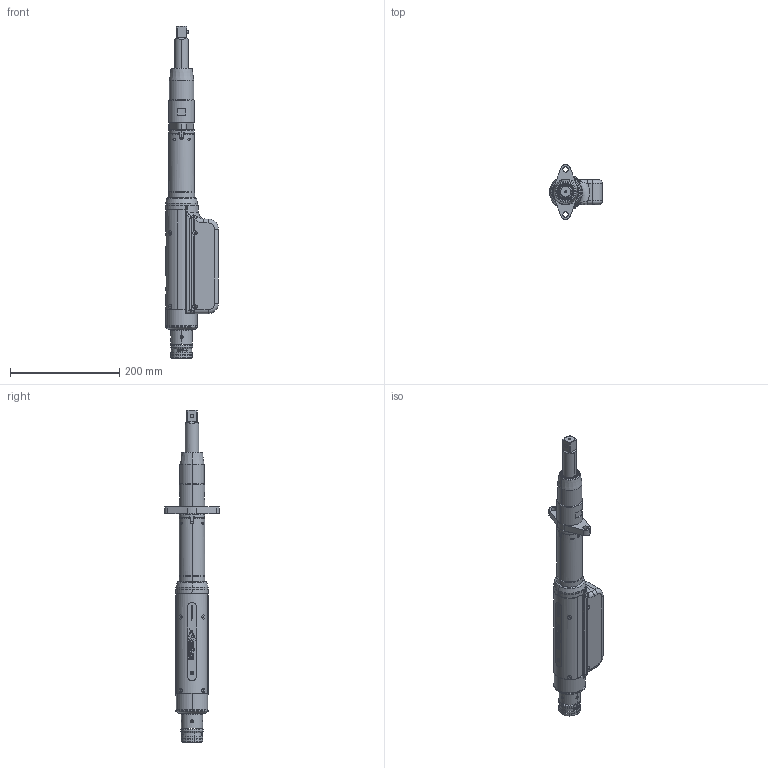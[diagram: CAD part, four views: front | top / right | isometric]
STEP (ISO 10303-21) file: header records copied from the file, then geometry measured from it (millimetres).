
FILE_DESCRIPTION (( 'STEP AP214' ), '1' );
FILE_NAME ('AEF35170A_-2.STEP', '2024-09-12T16:32:11', ( '' ), ( '' ), 'SwSTEP 2.0', 'SolidWorks 2024', '' );
FILE_SCHEMA (( 'AUTOMOTIVE_DESIGN' ));
Length unit declared in the file: inch
Products named in the file (1): AEF35170A_-2
Bounding box: 96.84 x 100.03 x 607.8 mm (x, y, z)
Surface area: 170519.7 mm2 (no closed solid volume)
Topology: 0 solids, 76 shells, 613 faces, 2454 edges, 1854 vertices
Faces by surface type: cylinder 231, plane 164, cone 76, bspline 70, torus 68, sphere 4
Entity records: 33231 total; most frequent: CARTESIAN_POINT 14201, DIRECTION 3683, ORIENTED_EDGE 3549, EDGE_CURVE 2452, VERTEX_POINT 1854, AXIS2_PLACEMENT_3D 1332, LINE 1019, VECTOR 1019
